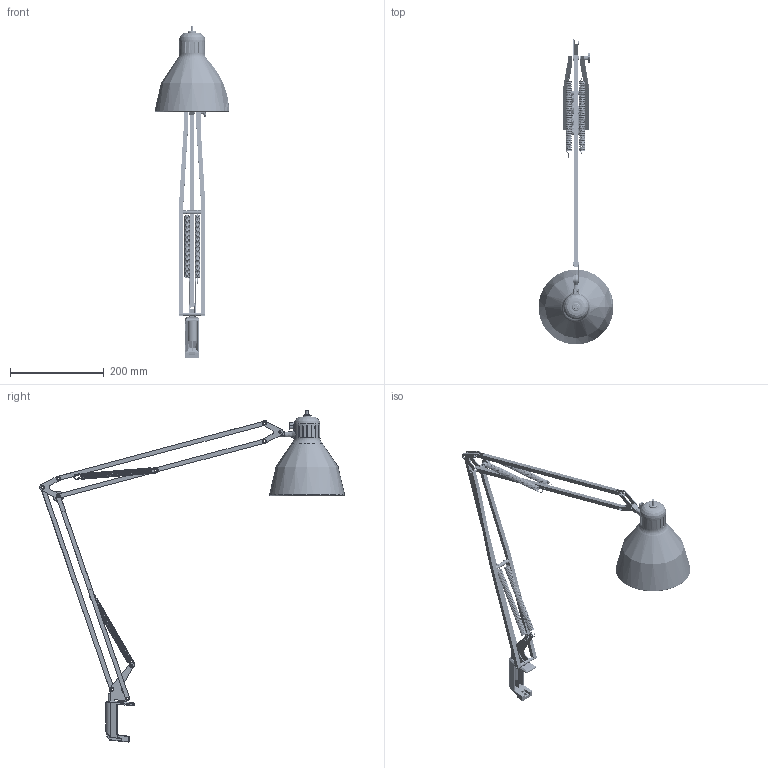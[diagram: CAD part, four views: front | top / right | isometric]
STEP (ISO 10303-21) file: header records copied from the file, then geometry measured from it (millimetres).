
FILE_DESCRIPTION(/* description */ (''),/* implementation_level */ '2;1');
FILE_NAME(/* name */ 'C:\Users\matteo.garelli\Desktop\JJ SMALL TABLE CLAMP.stp',/* time_stamp */ '2021-05-12T10:25:05+02:00',/* author */ ('matteo.garelli'),/* organization */ (''),/* preprocessor_version */ 'ST-DEVELOPER v18.1',/* originating_system */ 'Autodesk Inventor 2020',/* authorisation */ '');
FILE_SCHEMA (('AUTOMOTIVE_DESIGN { 1 0 10303 214 3 1 1 }'));
Products named in the file (1): JJ SMALL TABLE CLAMP
Bounding box: 160 x 651.36 x 709.01 mm (x, y, z)
Volume: 201581.1 mm3; surface area: 386047.4 mm2
Topology: 7 solids, 7 shells, 1227 faces, 3421 edges, 2254 vertices
Faces by surface type: plane 461, cylinder 393, bspline 236, torus 100, cone 24, sphere 13
Full cylindrical faces by diameter (mm): 2 x2, 2.459 x1, 3 x3, 4 x6, 4.134 x1, 4.2 x6, 4.917 x1, 5 x17, 5.2 x18, 5.75 x2, 5.9 x1, 6 x8, 6.8 x1, 7 x6, 7.2 x1, 8 x16, 8.5 x12, 8.917 x1, 9.5 x2, 10 x2, 10.3 x1, 11 x1, 12 x2, 17 x1, 53 x1, 156.004 x1
Entity records: 101121 total; most frequent: CARTESIAN_POINT 69207, ORIENTED_EDGE 6792, DIRECTION 5808, EDGE_CURVE 3396, VERTEX_POINT 2226, AXIS2_PLACEMENT_3D 2158, LINE 1492, VECTOR 1492
